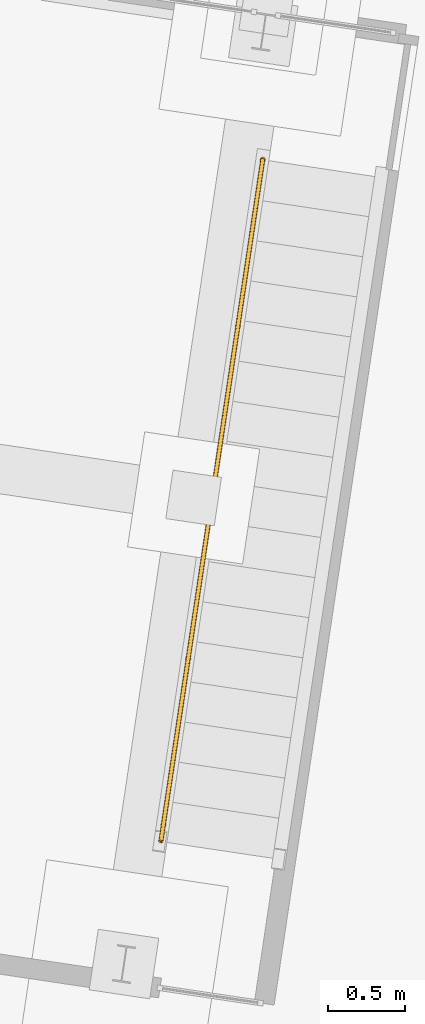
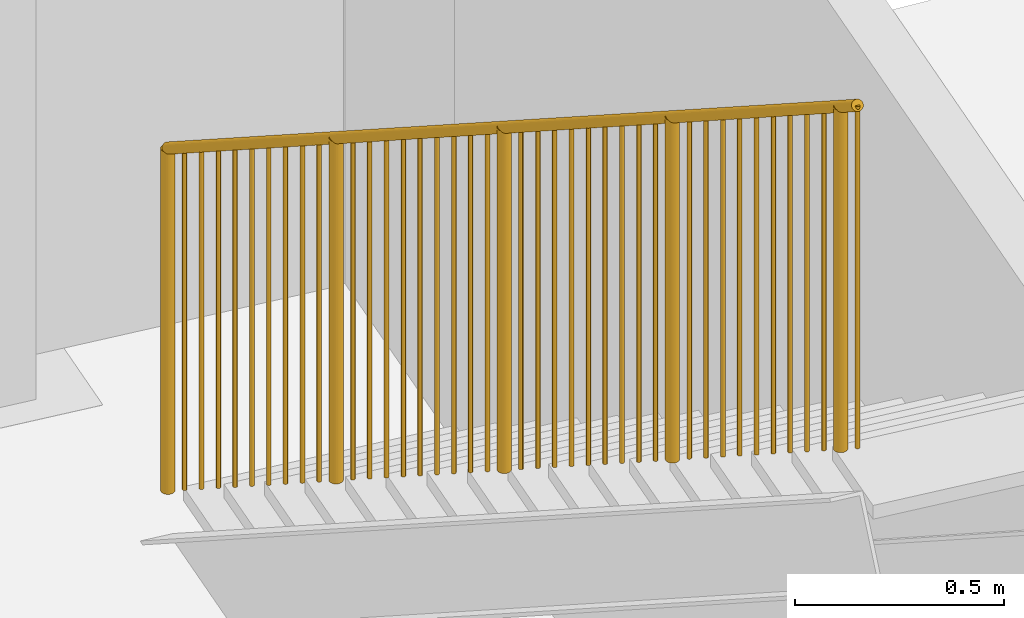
# One storey, part 139 of 142: 1 railing, 1 element without a shape of its own.
"""IFC4 building model written with IfcOpenShell, lengths in metres."""

import ifcopenshell
import ifcopenshell.guid

model = None  # the IFC model being written
_history = None  # IfcOwnerHistory: only IFC2X3 demands one
_inside = {}  # id of a spatial element -> (the spatial element, [elements in it])
_under = {}  # id of a project, library or spatial element -> (it, [spatial elements below it])
_declared = {}  # id of a project -> (the project, [libraries it declares])
_typed = {}  # id of a type object -> (the type object, [elements of that type])
_made_of = {}  # id of a material, layer set ... -> (it, [elements and type objects made of it])


def new_model(schema):
    """Start an empty IFC model of exactly this schema.

    Asked for "IFC4X3", IfcOpenShell would pick the latest addendum, in which some entities
    have other attributes; the version numbers below select the first issue.
    IFC2X3 requires an IfcOwnerHistory on every rooted entity: one is made here for all.
    """
    global model, _history
    if schema == "IFC4X3":
        model = ifcopenshell.file(schema_version=(4, 3, 0, 0))
    else:
        model = ifcopenshell.file(schema=schema)
    _inside.clear()
    _under.clear()
    _declared.clear()
    _typed.clear()
    _made_of.clear()
    _history = None
    if model.schema == "IFC2X3":
        org = make("IfcOrganization", Name="unknown")
        user = make(
            "IfcPersonAndOrganization",
            ThePerson=make("IfcPerson", FamilyName="unknown"),
            TheOrganization=org,
        )
        app = make(
            "IfcApplication",
            ApplicationDeveloper=org,
            Version="unknown",
            ApplicationFullName="unknown",
            ApplicationIdentifier="unknown",
        )
        _history = make(
            "IfcOwnerHistory",
            OwningUser=user,
            OwningApplication=app,
            ChangeAction="ADDED",
            CreationDate=0,
        )
    return model


def make(cls, **values):
    """One entity of the class cls with the attributes given. An attribute that is None is left unset."""
    return model.create_entity(
        cls, **{name: value for name, value in values.items() if value is not None}
    )


def rooted(cls, **values):
    """An entity with a GlobalId (a new one), such as an element, a storey or a relation."""
    return make(cls, GlobalId=ifcopenshell.guid.new(), OwnerHistory=_history, **values)


def si_unit(unit_type, name, prefix=None):
    """IfcSIUnit, for example si_unit("LENGTHUNIT", "METRE", prefix="MILLI")."""
    return make("IfcSIUnit", UnitType=unit_type, Prefix=prefix, Name=name)


def assignment(units):
    """IfcUnitAssignment: the units of a project."""
    return None if units is None else make("IfcUnitAssignment", Units=units)


def point(xyz):
    """IfcCartesianPoint."""
    return None if xyz is None else make("IfcCartesianPoint", Coordinates=xyz)


def direction(xyz):
    """IfcDirection."""
    return None if xyz is None else make("IfcDirection", DirectionRatios=xyz)


def frame(location, z_axis=None, x_axis=None):
    """IfcAxis2Placement3D, a coordinate frame: its origin and axes. An axis left out is left unset."""
    return make(
        "IfcAxis2Placement3D",
        Location=point(location),
        Axis=direction(z_axis),
        RefDirection=direction(x_axis),
    )


def origin_with_axes():
    """The frame at (0, 0, 0) with the z axis (0, 0, 1) and the x axis (1, 0, 0) written out."""
    return frame((0.0, 0.0, 0.0), z_axis=(0.0, 0.0, 1.0), x_axis=(1.0, 0.0, 0.0))


def place(relative_to, where):
    """IfcLocalPlacement: puts the frame where relative to a parent placement (None: the world)."""
    return make(
        "IfcLocalPlacement", PlacementRelTo=relative_to, RelativePlacement=where
    )


def context(
    kind, dimensions, precision=None, world=None, true_north=None, identifier=None
):
    """IfcGeometricRepresentationContext, for example the 3D "Model" context."""
    return make(
        "IfcGeometricRepresentationContext",
        ContextIdentifier=identifier,
        ContextType=kind,
        CoordinateSpaceDimension=dimensions,
        Precision=precision,
        WorldCoordinateSystem=world,
        TrueNorth=true_north,
    )


def subcontext(parent, identifier, kind, view, scale=None):
    """IfcGeometricRepresentationSubContext, for example "Body" below "Model"."""
    return make(
        "IfcGeometricRepresentationSubContext",
        ContextIdentifier=identifier,
        ContextType=kind,
        ParentContext=parent,
        TargetScale=scale,
        TargetView=view,
    )


def project(units=None, contexts=None):
    """IfcProject with its units and contexts."""
    return rooted(
        "IfcProject",
        Name="project",
        RepresentationContexts=contexts,
        UnitsInContext=assignment(units),
    )


def spatial(cls, under=None, at=None, **own):
    """A site, building, storey or space (cls), placed at a placement, below another one or the project."""
    s = rooted(cls, ObjectPlacement=at, **own)
    if under is not None:
        _under.setdefault(under.id(), (under, []))[1].append(s)
    return s


def profile(cls, at=None, kind="AREA", **sizes):
    """A parametric profile (cls). Its sizes go by their IFC names, for example OverallWidth=200.0."""
    return make(cls, ProfileType=kind, Position=at, **sizes)


def circle(**sizes):
    """IfcCircleProfileDef."""
    return profile("IfcCircleProfileDef", **sizes)


def extrude(swept, where, along, depth):
    """IfcExtrudedAreaSolid: the profile swept, set in the frame where, extruded along a direction by depth."""
    return make(
        "IfcExtrudedAreaSolid",
        SweptArea=swept,
        Position=where,
        ExtrudedDirection=direction(along),
        Depth=depth,
    )


def shape(context_of_items, identifier, shape_type, items):
    """IfcShapeRepresentation: the items that make up one representation, for example the "Body"."""
    return make(
        "IfcShapeRepresentation",
        ContextOfItems=context_of_items,
        RepresentationIdentifier=identifier,
        RepresentationType=shape_type,
        Items=items,
    )


def material(Name=None, Category=None):
    """IfcMaterial."""
    return make("IfcMaterial", Name=Name, Category=Category)


def made_of(thing, what):
    """Note that an element or type object is made of a material, layer set ...; save() writes the relation."""
    if what is not None:
        _made_of.setdefault(what.id(), (what, []))[1].append(thing)
    return thing


def element(
    cls,
    number,
    at=None,
    inside=None,
    cuts=None,
    type_object=None,
    material=None,
    context=None,
    identifier="Body",
    shape_type=None,
    held_by="IfcProductDefinitionShape",
    body=None,
    shapes=None,
    **own,
):
    """One element of the class cls, such as IfcWall. Its Tag is "e" and its number.

    at: its placement. inside: the storey or other place that contains it. cuts: it is an
    opening in that element (IfcRelVoidsElement). A single representation is given by context,
    identifier, shape_type and body (its items); several are given by shapes. held_by: the class
    of the entity that holds the representations. save() writes the other relations.
    """
    e = rooted(cls, Tag="e%d" % number, ObjectPlacement=at, **own)
    if body is not None:
        shapes = [shape(context, identifier, shape_type, body)]
    if shapes is not None:
        e.Representation = make(held_by, Representations=shapes)
    if inside is not None:
        _inside.setdefault(inside.id(), (inside, []))[1].append(e)
    if cuts is not None:
        rooted(
            "IfcRelVoidsElement", RelatingBuildingElement=cuts, RelatedOpeningElement=e
        )
    if type_object is not None:
        _typed.setdefault(type_object.id(), (type_object, []))[1].append(e)
    return made_of(e, material)


def aggregate(whole, parts):
    """IfcRelAggregates: a whole, such as a stair, and the parts it consists of."""
    return rooted("IfcRelAggregates", RelatingObject=whole, RelatedObjects=parts)


def save(model, path):
    """Write the relations noted so far, then the file.

    IfcRelAggregates (storeys below a building ...), IfcRelContainedInSpatialStructure (elements
    in a storey), IfcRelDefinesByType, IfcRelAssociatesMaterial and IfcRelDeclares: one each for
    every whole, place, type object, material and project.
    """
    for whole, parts in _under.values():
        aggregate(whole, parts)
    for where, things in _inside.values():
        rooted(
            "IfcRelContainedInSpatialStructure",
            RelatedElements=things,
            RelatingStructure=where,
        )
    for kind, things in _typed.values():
        rooted("IfcRelDefinesByType", RelatedObjects=things, RelatingType=kind)
    for what, things in _made_of.values():
        rooted("IfcRelAssociatesMaterial", RelatedObjects=things, RelatingMaterial=what)
    for by, libraries in _declared.values():
        rooted("IfcRelDeclares", RelatingContext=by, RelatedDefinitions=libraries)
    model.write(path)


model = new_model("IFC4")

# Units and contexts
model_context = context("Model", 3, precision=1e-05, world=origin_with_axes(), true_north=direction((0.0, 1.0)))
body_context = subcontext(model_context, "Body", "Model", "MODEL_VIEW")
ifc_project = project(units=[si_unit("LENGTHUNIT", "METRE"), si_unit("AREAUNIT", "SQUARE_METRE"), si_unit("VOLUMEUNIT", "CUBIC_METRE")], contexts=[model_context])

# Site, building, storey
site_placement = place(None, origin_with_axes())
site = spatial("IfcSite", under=ifc_project, at=site_placement, Name="Lares · Rua das Mercês · artigo 4771")
building_placement = place(site_placement, frame((15.0, 9.7, 14.65), z_axis=(0.0, 0.0, 1.0), x_axis=(0.989015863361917, -0.147809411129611, 0.0)))
building = spatial("IfcBuilding", under=site, at=building_placement, Name="Casa Sobreposta")
storey_placement = place(building_placement, origin_with_axes())
storey = spatial("IfcBuildingStorey", under=building, at=storey_placement, Name="00 · Habitação e estacionamento", Elevation=14.65)

# Stair, railing
stair_placement = place(storey_placement, origin_with_axes())
stair = element("IfcStair", 1, at=stair_placement, inside=storey, Name="Escada garagem", PredefinedType="STRAIGHT_RUN_STAIR")
ifc_material = material(Name="Aço pintado / Stahl lackiert", Category="steel")
railing_placement = place(stair_placement, origin_with_axes())
railing = element("IfcRailing", 2, at=railing_placement, material=ifc_material, Name="Corrimão garagem", PredefinedType="GUARDRAIL", context=body_context, shape_type="SweptSolid", body=[
    extrude(circle(Radius=0.015), frame((24.12, 5.4525, 1.18), z_axis=(0.0, -0.827216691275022, 0.561883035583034), x_axis=(-1.0, 0.0, 0.0)), (0.0, 0.0, 1.0), 5.44597328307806),
    extrude(circle(Radius=0.0175), frame((24.12, 5.4525, 0.18), z_axis=(0.0, 0.0, 1.0), x_axis=(1.0, 0.0, 0.0)), (0.0, 0.0, 1.0), 1.0),
    extrude(circle(Radius=0.006), frame((24.12, 5.34262195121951, 0.254634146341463), z_axis=(0.0, 0.0, 1.0), x_axis=(1.0, 0.0, 0.0)), (0.0, 0.0, 1.0), 1.0),
    extrude(circle(Radius=0.006), frame((24.12, 5.23274390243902, 0.329268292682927), z_axis=(0.0, 0.0, 1.0), x_axis=(1.0, 0.0, 0.0)), (0.0, 0.0, 1.0), 1.0),
    extrude(circle(Radius=0.006), frame((24.12, 5.12286585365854, 0.40390243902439), z_axis=(0.0, 0.0, 1.0), x_axis=(1.0, 0.0, 0.0)), (0.0, 0.0, 1.0), 1.0),
    extrude(circle(Radius=0.006), frame((24.12, 5.01298780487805, 0.478536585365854), z_axis=(0.0, 0.0, 1.0), x_axis=(1.0, 0.0, 0.0)), (0.0, 0.0, 1.0), 1.0),
    extrude(circle(Radius=0.006), frame((24.12, 4.90310975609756, 0.553170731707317), z_axis=(0.0, 0.0, 1.0), x_axis=(1.0, 0.0, 0.0)), (0.0, 0.0, 1.0), 1.0),
    extrude(circle(Radius=0.006), frame((24.12, 4.79323170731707, 0.62780487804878), z_axis=(0.0, 0.0, 1.0), x_axis=(1.0, 0.0, 0.0)), (0.0, 0.0, 1.0), 1.0),
    extrude(circle(Radius=0.006), frame((24.12, 4.68335365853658, 0.702439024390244), z_axis=(0.0, 0.0, 1.0), x_axis=(1.0, 0.0, 0.0)), (0.0, 0.0, 1.0), 1.0),
    extrude(circle(Radius=0.006), frame((24.12, 4.5734756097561, 0.777073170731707), z_axis=(0.0, 0.0, 1.0), x_axis=(1.0, 0.0, 0.0)), (0.0, 0.0, 1.0), 1.0),
    extrude(circle(Radius=0.006), frame((24.12, 4.46359756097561, 0.851707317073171), z_axis=(0.0, 0.0, 1.0), x_axis=(1.0, 0.0, 0.0)), (0.0, 0.0, 1.0), 1.0),
    extrude(circle(Radius=0.0175), frame((24.12, 4.35371951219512, 0.926341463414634), z_axis=(0.0, 0.0, 1.0), x_axis=(1.0, 0.0, 0.0)), (0.0, 0.0, 1.0), 1.0),
    extrude(circle(Radius=0.006), frame((24.12, 4.24384146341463, 1.0009756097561), z_axis=(0.0, 0.0, 1.0), x_axis=(1.0, 0.0, 0.0)), (0.0, 0.0, 1.0), 1.0),
    extrude(circle(Radius=0.006), frame((24.12, 4.13396341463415, 1.07560975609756), z_axis=(0.0, 0.0, 1.0), x_axis=(1.0, 0.0, 0.0)), (0.0, 0.0, 1.0), 1.0),
    extrude(circle(Radius=0.006), frame((24.12, 4.02408536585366, 1.15024390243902), z_axis=(0.0, 0.0, 1.0), x_axis=(1.0, 0.0, 0.0)), (0.0, 0.0, 1.0), 1.0),
    extrude(circle(Radius=0.006), frame((24.12, 3.91420731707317, 1.22487804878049), z_axis=(0.0, 0.0, 1.0), x_axis=(1.0, 0.0, 0.0)), (0.0, 0.0, 1.0), 1.0),
    extrude(circle(Radius=0.006), frame((24.12, 3.80432926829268, 1.29951219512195), z_axis=(0.0, 0.0, 1.0), x_axis=(1.0, 0.0, 0.0)), (0.0, 0.0, 1.0), 1.0),
    extrude(circle(Radius=0.006), frame((24.12, 3.6944512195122, 1.37414634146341), z_axis=(0.0, 0.0, 1.0), x_axis=(1.0, 0.0, 0.0)), (0.0, 0.0, 1.0), 1.0),
    extrude(circle(Radius=0.006), frame((24.12, 3.58457317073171, 1.44878048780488), z_axis=(0.0, 0.0, 1.0), x_axis=(1.0, 0.0, 0.0)), (0.0, 0.0, 1.0), 1.0),
    extrude(circle(Radius=0.006), frame((24.12, 3.47469512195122, 1.52341463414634), z_axis=(0.0, 0.0, 1.0), x_axis=(1.0, 0.0, 0.0)), (0.0, 0.0, 1.0), 1.0),
    extrude(circle(Radius=0.006), frame((24.12, 3.36481707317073, 1.5980487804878), z_axis=(0.0, 0.0, 1.0), x_axis=(1.0, 0.0, 0.0)), (0.0, 0.0, 1.0), 1.0),
    extrude(circle(Radius=0.0175), frame((24.12, 3.25493902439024, 1.67268292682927), z_axis=(0.0, 0.0, 1.0), x_axis=(1.0, 0.0, 0.0)), (0.0, 0.0, 1.0), 1.0),
    extrude(circle(Radius=0.006), frame((24.12, 3.14506097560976, 1.74731707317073), z_axis=(0.0, 0.0, 1.0), x_axis=(1.0, 0.0, 0.0)), (0.0, 0.0, 1.0), 1.0),
    extrude(circle(Radius=0.006), frame((24.12, 3.03518292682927, 1.8219512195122), z_axis=(0.0, 0.0, 1.0), x_axis=(1.0, 0.0, 0.0)), (0.0, 0.0, 1.0), 1.0),
    extrude(circle(Radius=0.006), frame((24.12, 2.92530487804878, 1.89658536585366), z_axis=(0.0, 0.0, 1.0), x_axis=(1.0, 0.0, 0.0)), (0.0, 0.0, 1.0), 1.0),
    extrude(circle(Radius=0.006), frame((24.12, 2.81542682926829, 1.97121951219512), z_axis=(0.0, 0.0, 1.0), x_axis=(1.0, 0.0, 0.0)), (0.0, 0.0, 1.0), 1.0),
    extrude(circle(Radius=0.006), frame((24.12, 2.7055487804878, 2.04585365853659), z_axis=(0.0, 0.0, 1.0), x_axis=(1.0, 0.0, 0.0)), (0.0, 0.0, 1.0), 1.0),
    extrude(circle(Radius=0.006), frame((24.12, 2.59567073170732, 2.12048780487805), z_axis=(0.0, 0.0, 1.0), x_axis=(1.0, 0.0, 0.0)), (0.0, 0.0, 1.0), 1.0),
    extrude(circle(Radius=0.006), frame((24.12, 2.48579268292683, 2.19512195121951), z_axis=(0.0, 0.0, 1.0), x_axis=(1.0, 0.0, 0.0)), (0.0, 0.0, 1.0), 1.0),
    extrude(circle(Radius=0.006), frame((24.12, 2.37591463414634, 2.26975609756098), z_axis=(0.0, 0.0, 1.0), x_axis=(1.0, 0.0, 0.0)), (0.0, 0.0, 1.0), 1.0),
    extrude(circle(Radius=0.006), frame((24.12, 2.26603658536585, 2.34439024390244), z_axis=(0.0, 0.0, 1.0), x_axis=(1.0, 0.0, 0.0)), (0.0, 0.0, 1.0), 1.0),
    extrude(circle(Radius=0.0175), frame((24.12, 2.15615853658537, 2.4190243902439), z_axis=(0.0, 0.0, 1.0), x_axis=(1.0, 0.0, 0.0)), (0.0, 0.0, 1.0), 1.0),
    extrude(circle(Radius=0.006), frame((24.12, 2.04628048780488, 2.49365853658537), z_axis=(0.0, 0.0, 1.0), x_axis=(1.0, 0.0, 0.0)), (0.0, 0.0, 1.0), 1.0),
    extrude(circle(Radius=0.006), frame((24.12, 1.93640243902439, 2.56829268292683), z_axis=(0.0, 0.0, 1.0), x_axis=(1.0, 0.0, 0.0)), (0.0, 0.0, 1.0), 1.0),
    extrude(circle(Radius=0.006), frame((24.12, 1.8265243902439, 2.64292682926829), z_axis=(0.0, 0.0, 1.0), x_axis=(1.0, 0.0, 0.0)), (0.0, 0.0, 1.0), 1.0),
    extrude(circle(Radius=0.006), frame((24.12, 1.71664634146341, 2.71756097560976), z_axis=(0.0, 0.0, 1.0), x_axis=(1.0, 0.0, 0.0)), (0.0, 0.0, 1.0), 1.0),
    extrude(circle(Radius=0.006), frame((24.12, 1.60676829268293, 2.79219512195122), z_axis=(0.0, 0.0, 1.0), x_axis=(1.0, 0.0, 0.0)), (0.0, 0.0, 1.0), 1.0),
    extrude(circle(Radius=0.006), frame((24.12, 1.49689024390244, 2.86682926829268), z_axis=(0.0, 0.0, 1.0), x_axis=(1.0, 0.0, 0.0)), (0.0, 0.0, 1.0), 1.0),
    extrude(circle(Radius=0.006), frame((24.12, 1.38701219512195, 2.94146341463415), z_axis=(0.0, 0.0, 1.0), x_axis=(1.0, 0.0, 0.0)), (0.0, 0.0, 1.0), 1.0),
    extrude(circle(Radius=0.006), frame((24.12, 1.27713414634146, 3.01609756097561), z_axis=(0.0, 0.0, 1.0), x_axis=(1.0, 0.0, 0.0)), (0.0, 0.0, 1.0), 1.0),
    extrude(circle(Radius=0.006), frame((24.12, 1.16725609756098, 3.09073170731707), z_axis=(0.0, 0.0, 1.0), x_axis=(1.0, 0.0, 0.0)), (0.0, 0.0, 1.0), 1.0),
    extrude(circle(Radius=0.0175), frame((24.12, 1.05737804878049, 3.16536585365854), z_axis=(0.0, 0.0, 1.0), x_axis=(1.0, 0.0, 0.0)), (0.0, 0.0, 1.0), 1.0),
    extrude(circle(Radius=0.006), frame((24.12, 0.9475, 3.24), z_axis=(0.0, 0.0, 1.0), x_axis=(1.0, 0.0, 0.0)), (0.0, 0.0, 1.0), 1.0),
])
aggregate(stair, [railing])

save(model, "model.ifc")
